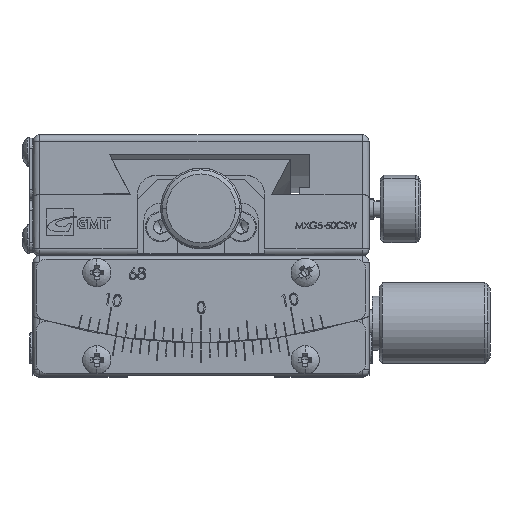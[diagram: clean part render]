
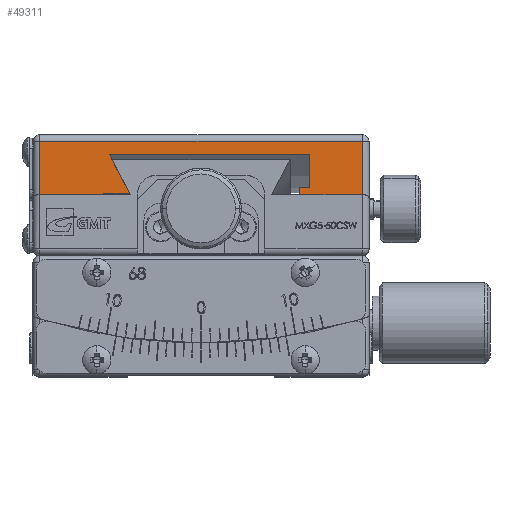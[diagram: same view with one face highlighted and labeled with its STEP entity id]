
A CAD part, top view. The second image highlights one B-rep face of the part: STEP entity #49311.
In plain terms, the highlighted planar face has unit normal (0, 0, 1) as drawn and (1, 0, 0) by its records, which use the part's own axes.
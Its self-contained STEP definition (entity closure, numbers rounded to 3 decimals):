
#689 = CARTESIAN_POINT ( 'NONE',  ( 25., -11., 24. ) ) ;
#1129 = VECTOR ( 'NONE', #83059, 1000. ) ;
#1255 = DIRECTION ( 'NONE',  ( 0., 1., 0. ) ) ;
#1450 = ORIENTED_EDGE ( 'NONE', *, *, #20876, .T. ) ;
#1464 = ORIENTED_EDGE ( 'NONE', *, *, #77904, .T. ) ;
#4795 = B_SPLINE_CURVE_WITH_KNOTS ( 'NONE', 3,
 ( #42399, #19121, #42735, #97423 ),
 .UNSPECIFIED., .F., .F.,
 ( 4, 4 ),
 ( 0.017, 0.024 ),
 .UNSPECIFIED. ) ;
#5362 = VERTEX_POINT ( 'NONE', #90881 ) ;
#5945 = VECTOR ( 'NONE', #23629, 1000. ) ;
#6342 = EDGE_CURVE ( 'NONE', #37745, #55050, #87900, .T. ) ;
#10909 = CARTESIAN_POINT ( 'NONE',  ( 25., -17.827, -10.496 ) ) ;
#12662 = CARTESIAN_POINT ( 'NONE',  ( 25., -10., -14.7 ) ) ;
#13241 = VECTOR ( 'NONE', #15093, 1000. ) ;
#14360 = B_SPLINE_CURVE_WITH_KNOTS ( 'NONE', 3,
 ( #29151, #68071, #44922, #99631 ),
 .UNSPECIFIED., .F., .F.,
 ( 4, 4 ),
 ( 0.015, 0.015 ),
 .UNSPECIFIED. ) ;
#15016 = CARTESIAN_POINT ( 'NONE',  ( 25., -18.915, 24. ) ) ;
#15059 = ORIENTED_EDGE ( 'NONE', *, *, #52191, .T. ) ;
#15093 = DIRECTION ( 'NONE',  ( 0., -1., 0. ) ) ;
#18133 = VERTEX_POINT ( 'NONE', #69313 ) ;
#18255 = CARTESIAN_POINT ( 'NONE',  ( 25., -18.915, 24. ) ) ;
#19121 = CARTESIAN_POINT ( 'NONE',  ( 25., -16.717, 11.664 ) ) ;
#19636 = CARTESIAN_POINT ( 'NONE',  ( 25., -18.698, -10.496 ) ) ;
#20305 = CARTESIAN_POINT ( 'NONE',  ( 25., -10., 14.5 ) ) ;
#20876 = EDGE_CURVE ( 'NONE', #31026, #5362, #86647, .T. ) ;
#21880 = LINE ( 'NONE', #12662, #1129 ) ;
#22792 = LINE ( 'NONE', #10909, #64321 ) ;
#23629 = DIRECTION ( 'NONE',  ( 0., 0., -1. ) ) ;
#24290 = CARTESIAN_POINT ( 'NONE',  ( 25., -11., 25. ) ) ;
#25214 = CARTESIAN_POINT ( 'NONE',  ( 25., -11., -24. ) ) ;
#26370 = EDGE_CURVE ( 'NONE', #76425, #18133, #21880, .T. ) ;
#27084 = CARTESIAN_POINT ( 'NONE',  ( 25., -18.915, 14.5 ) ) ;
#27113 = DIRECTION ( 'NONE',  ( 0., 0., 1. ) ) ;
#27412 = VECTOR ( 'NONE', #27482, 1000. ) ;
#27482 = DIRECTION ( 'NONE',  ( 0., 0., -1. ) ) ;
#28503 = VECTOR ( 'NONE', #63527, 1000. ) ;
#29080 = EDGE_LOOP ( 'NONE', ( #43574, #45378, #69576, #41656, #1464, #90978, #15059, #61412, #74194, #1450, #96894, #37960, #93126 ) ) ;
#29151 = CARTESIAN_POINT ( 'NONE',  ( 25., -18.698, 10.796 ) ) ;
#29371 = EDGE_CURVE ( 'NONE', #40374, #76425, #22792, .T. ) ;
#29468 = CARTESIAN_POINT ( 'NONE',  ( 25., -18.698, 14.5 ) ) ;
#29885 = LINE ( 'NONE', #19636, #27412 ) ;
#30421 = LINE ( 'NONE', #20305, #69511 ) ;
#30951 = LINE ( 'NONE', #24290, #28503 ) ;
#31026 = VERTEX_POINT ( 'NONE', #38038 ) ;
#31310 = LINE ( 'NONE', #56782, #70426 ) ;
#37745 = VERTEX_POINT ( 'NONE', #689 ) ;
#37960 = ORIENTED_EDGE ( 'NONE', *, *, #29371, .T. ) ;
#38038 = CARTESIAN_POINT ( 'NONE',  ( 25., -13., 13.614 ) ) ;
#38196 = LINE ( 'NONE', #74334, #56499 ) ;
#38613 = LINE ( 'NONE', #55872, #101026 ) ;
#38618 = DIRECTION ( 'NONE',  ( 0., -1., 0. ) ) ;
#39350 = CARTESIAN_POINT ( 'NONE',  ( 25., -13., 25. ) ) ;
#40374 = VERTEX_POINT ( 'NONE', #81940 ) ;
#41656 = ORIENTED_EDGE ( 'NONE', *, *, #6342, .T. ) ;
#42309 = VERTEX_POINT ( 'NONE', #64645 ) ;
#42399 = CARTESIAN_POINT ( 'NONE',  ( 25., -18.571, 10.679 ) ) ;
#42735 = CARTESIAN_POINT ( 'NONE',  ( 25., -14.86, 12.643 ) ) ;
#43574 = ORIENTED_EDGE ( 'NONE', *, *, #97301, .T. ) ;
#44228 = CARTESIAN_POINT ( 'NONE',  ( 25., -17.827, -14.7 ) ) ;
#44922 = CARTESIAN_POINT ( 'NONE',  ( 25., -18.613, 10.718 ) ) ;
#45378 = ORIENTED_EDGE ( 'NONE', *, *, #50435, .T. ) ;
#48155 = EDGE_CURVE ( 'NONE', #5362, #40374, #94006, .T. ) ;
#49311 = ADVANCED_FACE ( 'NONE', ( #68055 ), #66031, .F. ) ;
#50435 = EDGE_CURVE ( 'NONE', #94582, #79020, #38613, .T. ) ;
#50752 = EDGE_CURVE ( 'NONE', #81323, #42309, #14360, .T. ) ;
#51218 = VECTOR ( 'NONE', #38618, 1000. ) ;
#52191 = EDGE_CURVE ( 'NONE', #97887, #81323, #29885, .T. ) ;
#55050 = VERTEX_POINT ( 'NONE', #18255 ) ;
#55872 = CARTESIAN_POINT ( 'NONE',  ( 25., -10., -24. ) ) ;
#56499 = VECTOR ( 'NONE', #82236, 1000. ) ;
#56782 = CARTESIAN_POINT ( 'NONE',  ( 25., -18.915, 25. ) ) ;
#60433 = AXIS2_PLACEMENT_3D ( 'NONE', #73583, #73909, #27113 ) ;
#61412 = ORIENTED_EDGE ( 'NONE', *, *, #50752, .T. ) ;
#63527 = DIRECTION ( 'NONE',  ( 0., 0., 1. ) ) ;
#64321 = VECTOR ( 'NONE', #65536, 1000. ) ;
#64645 = CARTESIAN_POINT ( 'NONE',  ( 25., -18.571, 10.679 ) ) ;
#65536 = DIRECTION ( 'NONE',  ( 0., 0., 1. ) ) ;
#65616 = EDGE_CURVE ( 'NONE', #67615, #97887, #30421, .T. ) ;
#66031 = PLANE ( 'NONE',  #60433 ) ;
#67615 = VERTEX_POINT ( 'NONE', #27084 ) ;
#68055 = FACE_OUTER_BOUND ( 'NONE', #29080, .T. ) ;
#68071 = CARTESIAN_POINT ( 'NONE',  ( 25., -18.655, 10.757 ) ) ;
#69313 = CARTESIAN_POINT ( 'NONE',  ( 25., -18.915, -14.7 ) ) ;
#69511 = VECTOR ( 'NONE', #90725, 1000. ) ;
#69576 = ORIENTED_EDGE ( 'NONE', *, *, #81041, .T. ) ;
#70426 = VECTOR ( 'NONE', #86511, 1000. ) ;
#73583 = CARTESIAN_POINT ( 'NONE',  ( 25., -10., 25. ) ) ;
#73909 = DIRECTION ( 'NONE',  ( -1., 0., 0. ) ) ;
#74194 = ORIENTED_EDGE ( 'NONE', *, *, #82292, .T. ) ;
#74334 = CARTESIAN_POINT ( 'NONE',  ( 25., -18.915, 25. ) ) ;
#76425 = VERTEX_POINT ( 'NONE', #44228 ) ;
#77088 = CARTESIAN_POINT ( 'NONE',  ( 25., -18.915, -24. ) ) ;
#77606 = CARTESIAN_POINT ( 'NONE',  ( 25., -10., -16.2 ) ) ;
#77904 = EDGE_CURVE ( 'NONE', #55050, #67615, #31310, .T. ) ;
#79020 = VERTEX_POINT ( 'NONE', #25214 ) ;
#81041 = EDGE_CURVE ( 'NONE', #79020, #37745, #30951, .T. ) ;
#81323 = VERTEX_POINT ( 'NONE', #90176 ) ;
#81940 = CARTESIAN_POINT ( 'NONE',  ( 25., -17.827, -16.2 ) ) ;
#82236 = DIRECTION ( 'NONE',  ( 0., 0., -1. ) ) ;
#82292 = EDGE_CURVE ( 'NONE', #42309, #31026, #4795, .T. ) ;
#83059 = DIRECTION ( 'NONE',  ( 0., -1., 0. ) ) ;
#86511 = DIRECTION ( 'NONE',  ( 0., 0., -1. ) ) ;
#86647 = LINE ( 'NONE', #39350, #5945 ) ;
#87900 = LINE ( 'NONE', #15016, #51218 ) ;
#90176 = CARTESIAN_POINT ( 'NONE',  ( 25., -18.698, 10.796 ) ) ;
#90725 = DIRECTION ( 'NONE',  ( 0., 1., 0. ) ) ;
#90881 = CARTESIAN_POINT ( 'NONE',  ( 25., -13., -16.2 ) ) ;
#90978 = ORIENTED_EDGE ( 'NONE', *, *, #65616, .T. ) ;
#93126 = ORIENTED_EDGE ( 'NONE', *, *, #26370, .T. ) ;
#94006 = LINE ( 'NONE', #77606, #13241 ) ;
#94582 = VERTEX_POINT ( 'NONE', #77088 ) ;
#96894 = ORIENTED_EDGE ( 'NONE', *, *, #48155, .T. ) ;
#97301 = EDGE_CURVE ( 'NONE', #18133, #94582, #38196, .T. ) ;
#97423 = CARTESIAN_POINT ( 'NONE',  ( 25., -13., 13.614 ) ) ;
#97887 = VERTEX_POINT ( 'NONE', #29468 ) ;
#99631 = CARTESIAN_POINT ( 'NONE',  ( 25., -18.571, 10.679 ) ) ;
#101026 = VECTOR ( 'NONE', #1255, 1000. ) ;
